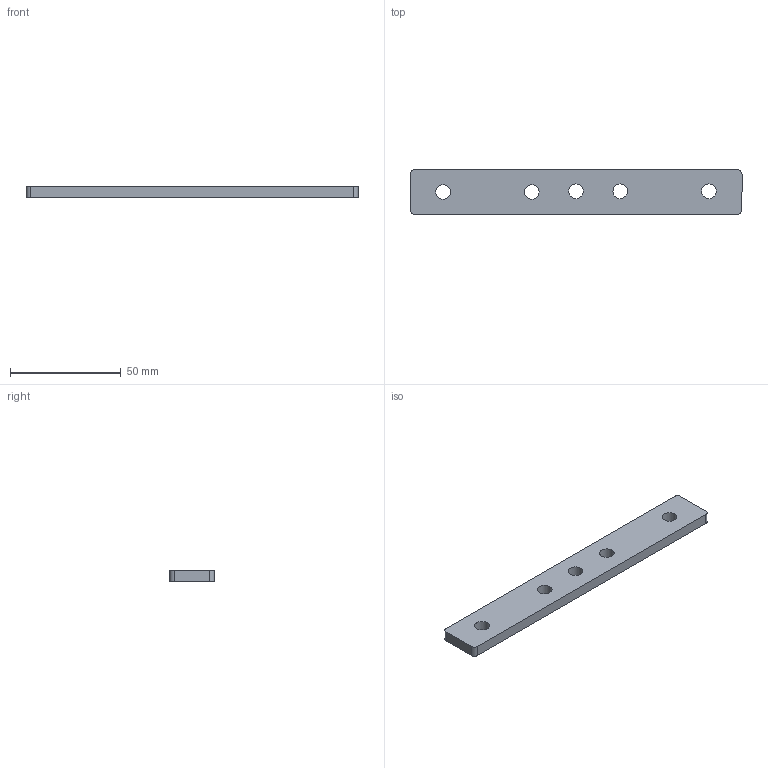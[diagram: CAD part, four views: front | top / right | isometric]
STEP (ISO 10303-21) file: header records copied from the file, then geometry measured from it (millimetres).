
FILE_DESCRIPTION((''),'2;1');
FILE_NAME('C:\Vault Klient\Projekt\Step\100-7010.stp','2009-12-10T13:13:05',('Mathias'),(''),'Autodesk Inventor 2010','Autodesk Inventor 2010','');
FILE_SCHEMA(('CONFIG_CONTROL_DESIGN'));
Length unit declared in the file: millimetre
Products named in the file (1): 100-7010
Bounding box: 150 x 20 x 5 mm (x, y, z)
Volume: 14115.5 mm3; surface area: 7850.9 mm2
Topology: 1 solids, 1 shells, 15 faces, 44 edges, 31 vertices
Faces by surface type: plane 6, bspline 5, cylinder 4
Entity records: 557 total; most frequent: CARTESIAN_POINT 161, DIRECTION 74, ORIENTED_EDGE 68, EDGE_CURVE 34, EDGE_LOOP 30, AXIS2_PLACEMENT_3D 29, VERTEX_POINT 26, CIRCLE 18
